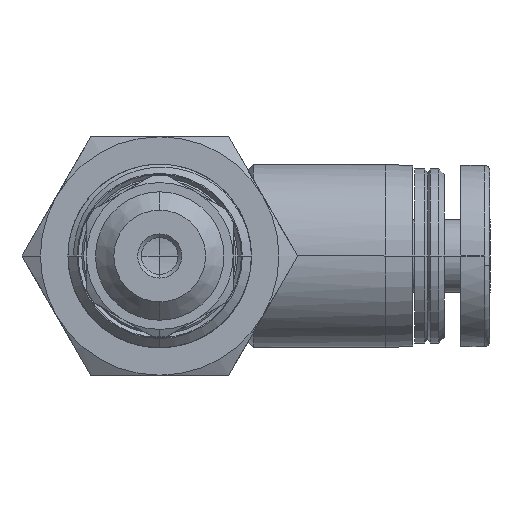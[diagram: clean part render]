
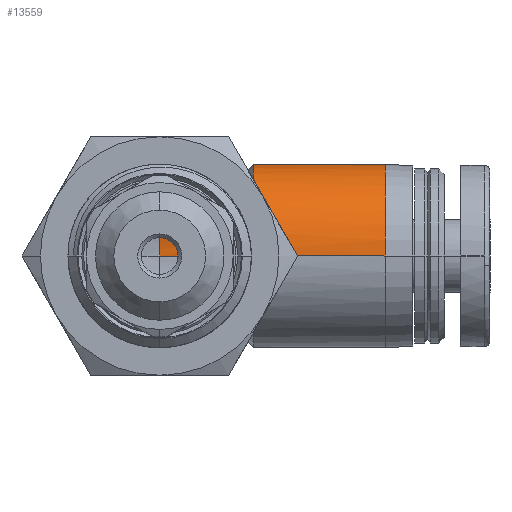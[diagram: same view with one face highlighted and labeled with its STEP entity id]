
A CAD part, front view. The second image highlights one B-rep face of the part: STEP entity #13559.
In plain terms, the highlighted cylindrical face has radius 5 mm (diameter 10 mm), a partial arc.
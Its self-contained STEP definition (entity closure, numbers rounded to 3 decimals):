
#262 = CARTESIAN_POINT ( 'NONE',  ( 7.008, 54.808, 0.334 ) ) ;
#363 = ORIENTED_EDGE ( 'NONE', *, *, #7045, .F. ) ;
#392 = ORIENTED_EDGE ( 'NONE', *, *, #15152, .F. ) ;
#495 = EDGE_CURVE ( 'NONE', #8232, #15306, #5832, .T. ) ;
#516 = CARTESIAN_POINT ( 'NONE',  ( 5.1, 59.8, 0. ) ) ;
#1073 = FACE_OUTER_BOUND ( 'NONE', #16932, .T. ) ;
#1099 = LINE ( 'NONE', #2306, #11295 ) ;
#1110 = ORIENTED_EDGE ( 'NONE', *, *, #14749, .F. ) ;
#1841 = VERTEX_POINT ( 'NONE', #17234 ) ;
#1917 = CARTESIAN_POINT ( 'NONE',  ( 7.025, 54.825, 0.5 ) ) ;
#2306 = CARTESIAN_POINT ( 'NONE',  ( 0., 64.8, 0. ) ) ;
#2476 = CARTESIAN_POINT ( 'NONE',  ( 5.1, 54.825, 0.5 ) ) ;
#2613 = DIRECTION ( 'NONE',  ( 1., 0., 0. ) ) ;
#2899 = CARTESIAN_POINT ( 'NONE',  ( 0., 64.8, 0. ) ) ;
#3117 = ORIENTED_EDGE ( 'NONE', *, *, #5937, .T. ) ;
#3301 = AXIS2_PLACEMENT_3D ( 'NONE', #11179, #5293, #5191 ) ;
#4201 = EDGE_CURVE ( 'NONE', #1841, #14945, #6627, .T. ) ;
#4514 = CARTESIAN_POINT ( 'NONE',  ( 5.1, 64.699, 1. ) ) ;
#4668 = DIRECTION ( 'NONE',  ( 1., 0., 0. ) ) ;
#5191 = DIRECTION ( 'NONE',  ( 0., 1., 0. ) ) ;
#5293 = DIRECTION ( 'NONE',  ( 1., 0., 0. ) ) ;
#5832 = CIRCLE ( 'NONE', #10313, 5. ) ;
#5937 = EDGE_CURVE ( 'NONE', #10156, #15306, #8424, .T. ) ;
#5971 = CARTESIAN_POINT ( 'NONE',  ( 7., 54.8, 0.168 ) ) ;
#6125 = EDGE_CURVE ( 'NONE', #8632, #1841, #14520, .T. ) ;
#6360 = LINE ( 'NONE', #6448, #14098 ) ;
#6448 = CARTESIAN_POINT ( 'NONE',  ( 5.1, 54.825, 0.5 ) ) ;
#6627 = LINE ( 'NONE', #12308, #6773 ) ;
#6773 = VECTOR ( 'NONE', #13990, 1000. ) ;
#6780 = VERTEX_POINT ( 'NONE', #15137 ) ;
#6802 = CYLINDRICAL_SURFACE ( 'NONE', #3301, 5. ) ;
#7045 = EDGE_CURVE ( 'NONE', #12285, #6780, #1099, .T. ) ;
#7319 = CARTESIAN_POINT ( 'NONE',  ( 0., 59.8, 0. ) ) ;
#7517 = CIRCLE ( 'NONE', #14960, 5. ) ;
#7867 = ORIENTED_EDGE ( 'NONE', *, *, #6125, .T. ) ;
#8232 = VERTEX_POINT ( 'NONE', #2476 ) ;
#8424 = LINE ( 'NONE', #12708, #14527 ) ;
#8632 = VERTEX_POINT ( 'NONE', #18397 ) ;
#8807 = DIRECTION ( 'NONE',  ( -1., 0., 0. ) ) ;
#8931 = DIRECTION ( 'NONE',  ( 1., 0., 0. ) ) ;
#9332 = ORIENTED_EDGE ( 'NONE', *, *, #14246, .T. ) ;
#9651 = ORIENTED_EDGE ( 'NONE', *, *, #495, .F. ) ;
#9722 = DIRECTION ( 'NONE',  ( 1., 0., 0. ) ) ;
#9737 = ORIENTED_EDGE ( 'NONE', *, *, #4201, .T. ) ;
#10099 = CARTESIAN_POINT ( 'NONE',  ( 7., 54.8, 0. ) ) ;
#10156 = VERTEX_POINT ( 'NONE', #13665 ) ;
#10313 = AXIS2_PLACEMENT_3D ( 'NONE', #516, #17505, #13136 ) ;
#11179 = CARTESIAN_POINT ( 'NONE',  ( 12.3, 59.8, 0. ) ) ;
#11295 = VECTOR ( 'NONE', #9722, 1000. ) ;
#11818 = DIRECTION ( 'NONE',  ( 0., 1., 0. ) ) ;
#12285 = VERTEX_POINT ( 'NONE', #2899 ) ;
#12308 = CARTESIAN_POINT ( 'NONE',  ( 7., 54.8, 0. ) ) ;
#12372 = CARTESIAN_POINT ( 'NONE',  ( 12.3, 54.8, 0. ) ) ;
#12708 = CARTESIAN_POINT ( 'NONE',  ( 0., 64.699, 1. ) ) ;
#13008 = DIRECTION ( 'NONE',  ( 0., 0.98, 0.2 ) ) ;
#13136 = DIRECTION ( 'NONE',  ( 0., 0., 1. ) ) ;
#13491 = AXIS2_PLACEMENT_3D ( 'NONE', #7319, #8807, #13008 ) ;
#13559 = ADVANCED_FACE ( 'NONE', ( #1073 ), #6802, .T. ) ;
#13665 = CARTESIAN_POINT ( 'NONE',  ( 0., 64.699, 1. ) ) ;
#13990 = DIRECTION ( 'NONE',  ( 1., 0., 0. ) ) ;
#14098 = VECTOR ( 'NONE', #4668, 1000. ) ;
#14246 = EDGE_CURVE ( 'NONE', #8232, #8632, #6360, .T. ) ;
#14520 = B_SPLINE_CURVE_WITH_KNOTS ( 'NONE', 3,
 ( #1917, #262, #5971, #10099 ),
 .UNSPECIFIED., .F., .F.,
 ( 4, 4 ),
 ( 0., 1. ),
 .UNSPECIFIED. ) ;
#14527 = VECTOR ( 'NONE', #2613, 1000. ) ;
#14697 = CARTESIAN_POINT ( 'NONE',  ( 12.3, 59.8, 0. ) ) ;
#14749 = EDGE_CURVE ( 'NONE', #6780, #14945, #7517, .T. ) ;
#14945 = VERTEX_POINT ( 'NONE', #12372 ) ;
#14960 = AXIS2_PLACEMENT_3D ( 'NONE', #14697, #8931, #11818 ) ;
#15137 = CARTESIAN_POINT ( 'NONE',  ( 12.3, 64.8, 0. ) ) ;
#15152 = EDGE_CURVE ( 'NONE', #10156, #12285, #18264, .T. ) ;
#15306 = VERTEX_POINT ( 'NONE', #4514 ) ;
#16932 = EDGE_LOOP ( 'NONE', ( #1110, #363, #392, #3117, #9651, #9332, #7867, #9737 ) ) ;
#17234 = CARTESIAN_POINT ( 'NONE',  ( 7., 54.8, 0. ) ) ;
#17505 = DIRECTION ( 'NONE',  ( -1., 0., 0. ) ) ;
#18264 = CIRCLE ( 'NONE', #13491, 5. ) ;
#18397 = CARTESIAN_POINT ( 'NONE',  ( 7.025, 54.825, 0.5 ) ) ;
